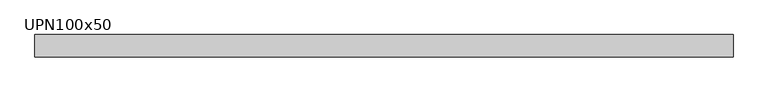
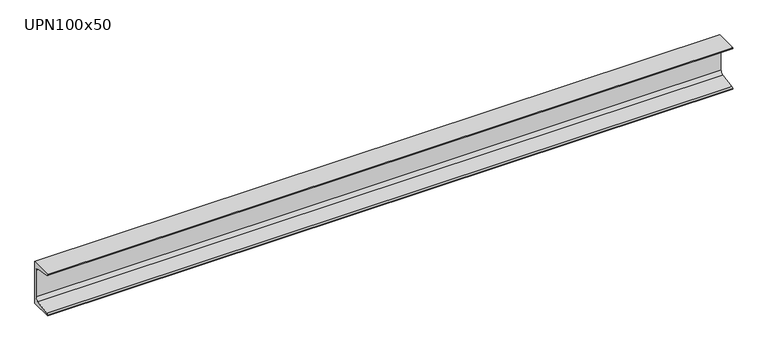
"""IFC4 building model written with IfcOpenShell, lengths in millimetres: beam geometry, M_MC Shapes : UPN100x50."""

from ifc_helpers import new_model, si_unit, point, frame, frame_2d, origin, place, context, project, spatial, polyline, circle_curve, trimmed, segment, composite_curve, outline, extrude, source, transform, mapped, element, save


def upn100x50_40f5e142(model_context):
    return source(origin(), model_context, "Body", "SweptSolid", [
        extrude(outline(composite_curve([segment(polyline([(10.9, 50.0), (10.9, -50.0), (-39.1, -50.0), (-39.1, -49.0253247)]), True, "CONTINUOUS"), segment(trimmed(circle_curve(frame_2d((-35.15, -49.0253247)), 3.95), [point((-39.1, -49.0253247))], [point((-35.7993773, -45.1290689))], False, "CARTESIAN"), True, "CONTINUOUS"), segment(polyline([(-35.7993773, -45.1290689), (-0.2512455, -39.2043685)]), True, "CONTINUOUS"), segment(trimmed(circle_curve(frame_2d((-1.55, -31.4118569)), 7.9), [point((-0.2512455, -39.2043685))], [point((6.35, -31.4118569))], True, "CARTESIAN"), True, "CONTINUOUS"), segment(polyline([(6.35, -31.4118569), (6.35, 31.4118569)]), True, "CONTINUOUS"), segment(trimmed(circle_curve(frame_2d((-1.55, 31.4118569)), 7.9), [point((6.35, 31.4118569))], [point((-0.2512455, 39.2043685))], True, "CARTESIAN"), True, "CONTINUOUS"), segment(polyline([(-0.2512455, 39.2043685), (-35.7993773, 45.1290689)]), True, "CONTINUOUS"), segment(trimmed(circle_curve(frame_2d((-35.15, 49.0253247)), 3.95), [point((-35.7993773, 45.1290689))], [point((-39.1, 49.0253247))], False, "CARTESIAN"), True, "CONTINUOUS"), segment(polyline([(-39.1, 49.0253247), (-39.1, 50.0), (10.9, 50.0)]), True, "CONTINUOUS")], self_intersect=False)), frame((-760.6, 0.0, 0.0), z_axis=(1.0, 0.0, 0.0), x_axis=(0.0, 1.0, 0.0)), (0.0, 0.0, 1.0), 1550.6),
    ])


if __name__ == "__main__":
    model = new_model("IFC4")
    model_context = context("Model", 3, world=origin())
    ifc_project = project(units=[si_unit("LENGTHUNIT", "METRE", prefix="MILLI")], contexts=[model_context])
    site = spatial("IfcSite", under=ifc_project)
    building = spatial("IfcBuilding", under=site)
    placement = place(None, origin())
    upn100x50_shape = upn100x50_40f5e142(model_context)
    element("IfcBeam", 1, ObjectType="M_MC Shapes : UPN100x50", at=placement, inside=building, context=model_context, shape_type="MappedRepresentation", body=[
        mapped(upn100x50_shape, transform((0.0, 0.0, 0.0), x_axis=(1.0, 0.0, 0.0), y_axis=(0.0, 1.0, 0.0), z_axis=(0.0, 0.0, 1.0))),
    ])
    save(model, "model.ifc")
